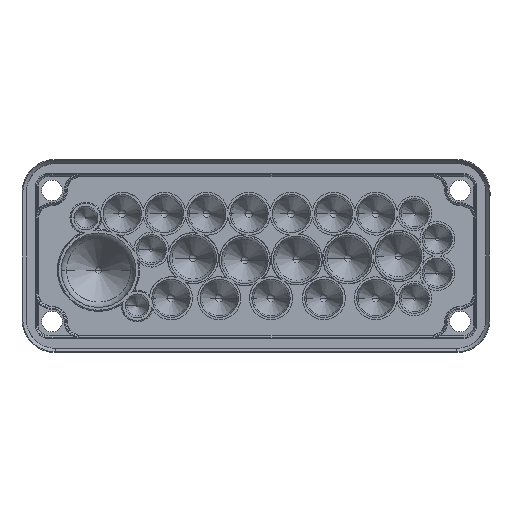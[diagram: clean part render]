
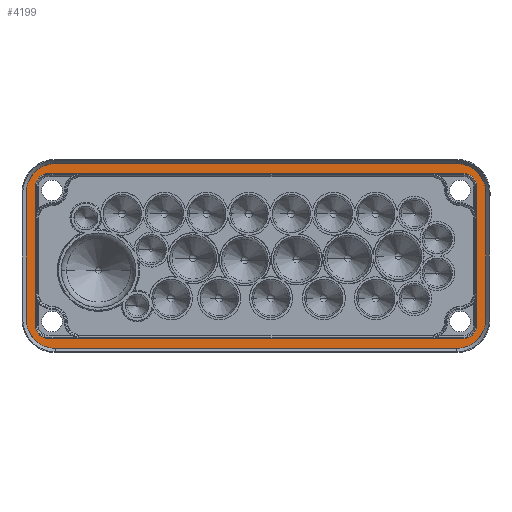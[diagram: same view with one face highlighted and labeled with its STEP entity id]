
A CAD part, front view. The second image highlights one B-rep face of the part: STEP entity #4199.
In plain terms, the highlighted planar face has unit normal (0, -1, 0).
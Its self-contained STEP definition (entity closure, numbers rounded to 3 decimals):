
#191 = CIRCLE ( 'NONE', #49527, 13.7 ) ;
#347 = ORIENTED_EDGE ( 'NONE', *, *, #53894, .T. ) ;
#716 = CARTESIAN_POINT ( 'NONE',  ( 127.593, -8.374, 26.365 ) ) ;
#951 = CARTESIAN_POINT ( 'NONE',  ( 117.293, -8.374, -42.535 ) ) ;
#2208 = AXIS2_PLACEMENT_3D ( 'NONE', #64522, #31467, #65068 ) ;
#3133 = AXIS2_PLACEMENT_3D ( 'NONE', #68010, #51422, #10684 ) ;
#3454 = DIRECTION ( 'NONE',  ( 0., 1., 0. ) ) ;
#3748 = CARTESIAN_POINT ( 'NONE',  ( 117.293, -8.374, 29.265 ) ) ;
#4022 = CIRCLE ( 'NONE', #46485, 13.7 ) ;
#4199 = ADVANCED_FACE ( 'NONE', ( #54497, #4378 ), #55032, .T. ) ;
#4378 = FACE_OUTER_BOUND ( 'NONE', #65223, .T. ) ;
#6468 = DIRECTION ( 'NONE',  ( 0., 1., 0. ) ) ;
#6979 = ORIENTED_EDGE ( 'NONE', *, *, #14249, .F. ) ;
#7161 = LINE ( 'NONE', #40763, #73784 ) ;
#7284 = VECTOR ( 'NONE', #60552, 1000. ) ;
#7594 = EDGE_LOOP ( 'NONE', ( #102951, #28974, #347, #11031, #15626, #90509, #20460, #85736 ) ) ;
#9050 = CARTESIAN_POINT ( 'NONE',  ( -76.107, -8.374, -47.335 ) ) ;
#9456 = EDGE_CURVE ( 'NONE', #12578, #35932, #191, .T. ) ;
#10684 = DIRECTION ( 'NONE',  ( 0., 0., -1. ) ) ;
#10884 = CIRCLE ( 'NONE', #68944, 6. ) ;
#11031 = ORIENTED_EDGE ( 'NONE', *, *, #50639, .T. ) ;
#11320 = ORIENTED_EDGE ( 'NONE', *, *, #26366, .F. ) ;
#12360 = AXIS2_PLACEMENT_3D ( 'NONE', #12811, #3454, #45312 ) ;
#12578 = VERTEX_POINT ( 'NONE', #26761 ) ;
#12811 = CARTESIAN_POINT ( 'NONE',  ( -79.507, -8.374, 29.265 ) ) ;
#12959 = CIRCLE ( 'NONE', #74564, 6. ) ;
#13312 = EDGE_CURVE ( 'NONE', #83890, #37368, #61623, .T. ) ;
#14019 = CARTESIAN_POINT ( 'NONE',  ( -76.107, -8.374, -33.635 ) ) ;
#14249 = EDGE_CURVE ( 'NONE', #35932, #32002, #58714, .T. ) ;
#15038 = LINE ( 'NONE', #108753, #21920 ) ;
#15560 = CARTESIAN_POINT ( 'NONE',  ( -79.507, -8.374, 35.265 ) ) ;
#15626 = ORIENTED_EDGE ( 'NONE', *, *, #82563, .T. ) ;
#18421 = VECTOR ( 'NONE', #59378, 1000. ) ;
#20460 = ORIENTED_EDGE ( 'NONE', *, *, #73088, .T. ) ;
#21677 = AXIS2_PLACEMENT_3D ( 'NONE', #105242, #63874, #21993 ) ;
#21920 = VECTOR ( 'NONE', #58508, 1000. ) ;
#21993 = DIRECTION ( 'NONE',  ( 0., 0., -1. ) ) ;
#23340 = DIRECTION ( 'NONE',  ( 0., 1., 0. ) ) ;
#24092 = VERTEX_POINT ( 'NONE', #49800 ) ;
#24237 = VERTEX_POINT ( 'NONE', #27711 ) ;
#26366 = EDGE_CURVE ( 'NONE', #87853, #92493, #76494, .T. ) ;
#26761 = CARTESIAN_POINT ( 'NONE',  ( 127.593, -8.374, -33.635 ) ) ;
#27711 = CARTESIAN_POINT ( 'NONE',  ( 113.893, -8.374, 40.065 ) ) ;
#28146 = VERTEX_POINT ( 'NONE', #716 ) ;
#28426 = VECTOR ( 'NONE', #53461, 1000. ) ;
#28465 = VERTEX_POINT ( 'NONE', #15560 ) ;
#28499 = CARTESIAN_POINT ( 'NONE',  ( 113.893, -8.374, 26.365 ) ) ;
#28974 = ORIENTED_EDGE ( 'NONE', *, *, #13312, .F. ) ;
#29162 = LINE ( 'NONE', #97565, #51329 ) ;
#31273 = CARTESIAN_POINT ( 'NONE',  ( 117.293, -8.374, -36.535 ) ) ;
#31467 = DIRECTION ( 'NONE',  ( 0., 1., 0. ) ) ;
#32002 = VERTEX_POINT ( 'NONE', #9050 ) ;
#35932 = VERTEX_POINT ( 'NONE', #92481 ) ;
#36007 = CARTESIAN_POINT ( 'NONE',  ( 117.293, -8.374, 35.265 ) ) ;
#37368 = VERTEX_POINT ( 'NONE', #61747 ) ;
#37882 = DIRECTION ( 'NONE',  ( 0., 0., -1. ) ) ;
#39850 = EDGE_CURVE ( 'NONE', #24092, #99073, #29162, .T. ) ;
#40763 = CARTESIAN_POINT ( 'NONE',  ( 117.293, -8.374, -42.535 ) ) ;
#42745 = ORIENTED_EDGE ( 'NONE', *, *, #9456, .F. ) ;
#43488 = DIRECTION ( 'NONE',  ( 0., 0., 1. ) ) ;
#45312 = DIRECTION ( 'NONE',  ( 0., 0., -1. ) ) ;
#46485 = AXIS2_PLACEMENT_3D ( 'NONE', #28499, #78677, #68754 ) ;
#47235 = DIRECTION ( 'NONE',  ( 0., 0., -1. ) ) ;
#48119 = VERTEX_POINT ( 'NONE', #36007 ) ;
#48447 = DIRECTION ( 'NONE',  ( 0., 0., -1. ) ) ;
#49527 = AXIS2_PLACEMENT_3D ( 'NONE', #90888, #73283, #48447 ) ;
#49800 = CARTESIAN_POINT ( 'NONE',  ( -85.507, -8.374, -36.535 ) ) ;
#50533 = CARTESIAN_POINT ( 'NONE',  ( -89.807, -8.374, -33.635 ) ) ;
#50605 = CIRCLE ( 'NONE', #3133, 13.7 ) ;
#50639 = EDGE_CURVE ( 'NONE', #80976, #94656, #7161, .T. ) ;
#51329 = VECTOR ( 'NONE', #62778, 1000. ) ;
#51422 = DIRECTION ( 'NONE',  ( 0., 1., 0. ) ) ;
#52220 = CARTESIAN_POINT ( 'NONE',  ( -89.807, -8.374, 26.365 ) ) ;
#53461 = DIRECTION ( 'NONE',  ( 1., 0., 0. ) ) ;
#53894 = EDGE_CURVE ( 'NONE', #83890, #80976, #12959, .T. ) ;
#53968 = CARTESIAN_POINT ( 'NONE',  ( -79.507, -8.374, 35.265 ) ) ;
#54331 = EDGE_CURVE ( 'NONE', #57702, #24237, #15038, .T. ) ;
#54497 = FACE_BOUND ( 'NONE', #7594, .T. ) ;
#55032 = PLANE ( 'NONE',  #21677 ) ;
#55628 = ORIENTED_EDGE ( 'NONE', *, *, #58153, .F. ) ;
#57702 = VERTEX_POINT ( 'NONE', #102998 ) ;
#58153 = EDGE_CURVE ( 'NONE', #92493, #57702, #50605, .T. ) ;
#58508 = DIRECTION ( 'NONE',  ( 1., 0., 0. ) ) ;
#58714 = LINE ( 'NONE', #93458, #86148 ) ;
#59378 = DIRECTION ( 'NONE',  ( 0., 0., 1. ) ) ;
#60552 = DIRECTION ( 'NONE',  ( 0., 0., 1. ) ) ;
#61623 = LINE ( 'NONE', #62701, #7284 ) ;
#61667 = CARTESIAN_POINT ( 'NONE',  ( 127.593, -8.374, -33.635 ) ) ;
#61747 = CARTESIAN_POINT ( 'NONE',  ( 123.293, -8.374, 29.265 ) ) ;
#62701 = CARTESIAN_POINT ( 'NONE',  ( 123.293, -8.374, -36.535 ) ) ;
#62778 = DIRECTION ( 'NONE',  ( 0., 0., 1. ) ) ;
#62804 = LINE ( 'NONE', #53968, #28426 ) ;
#63874 = DIRECTION ( 'NONE',  ( 0., -1., 0. ) ) ;
#64522 = CARTESIAN_POINT ( 'NONE',  ( -79.507, -8.374, -36.535 ) ) ;
#65068 = DIRECTION ( 'NONE',  ( 0., 0., -1. ) ) ;
#65223 = EDGE_LOOP ( 'NONE', ( #103545, #83267, #55628, #11320, #99130, #6979, #42745, #76629 ) ) ;
#68010 = CARTESIAN_POINT ( 'NONE',  ( -76.107, -8.374, 26.365 ) ) ;
#68754 = DIRECTION ( 'NONE',  ( 0., 0., -1. ) ) ;
#68944 = AXIS2_PLACEMENT_3D ( 'NONE', #3748, #70987, #37882 ) ;
#70987 = DIRECTION ( 'NONE',  ( 0., 1., 0. ) ) ;
#72978 = DIRECTION ( 'NONE',  ( 0., 0., -1. ) ) ;
#73088 = EDGE_CURVE ( 'NONE', #99073, #28465, #88056, .T. ) ;
#73283 = DIRECTION ( 'NONE',  ( 0., 1., 0. ) ) ;
#73784 = VECTOR ( 'NONE', #74389, 1000. ) ;
#74319 = EDGE_CURVE ( 'NONE', #32002, #87853, #100694, .T. ) ;
#74389 = DIRECTION ( 'NONE',  ( -1., 0., 0. ) ) ;
#74564 = AXIS2_PLACEMENT_3D ( 'NONE', #31273, #6468, #47235 ) ;
#76494 = LINE ( 'NONE', #50533, #18421 ) ;
#76629 = ORIENTED_EDGE ( 'NONE', *, *, #97535, .T. ) ;
#78677 = DIRECTION ( 'NONE',  ( 0., 1., 0. ) ) ;
#80976 = VERTEX_POINT ( 'NONE', #951 ) ;
#82563 = EDGE_CURVE ( 'NONE', #94656, #24092, #106117, .T. ) ;
#83122 = AXIS2_PLACEMENT_3D ( 'NONE', #14019, #23340, #72978 ) ;
#83267 = ORIENTED_EDGE ( 'NONE', *, *, #54331, .F. ) ;
#83783 = EDGE_CURVE ( 'NONE', #24237, #28146, #4022, .T. ) ;
#83890 = VERTEX_POINT ( 'NONE', #92375 ) ;
#84902 = CARTESIAN_POINT ( 'NONE',  ( -89.807, -8.374, -33.635 ) ) ;
#85736 = ORIENTED_EDGE ( 'NONE', *, *, #88797, .T. ) ;
#86146 = CARTESIAN_POINT ( 'NONE',  ( -79.507, -8.374, -42.535 ) ) ;
#86148 = VECTOR ( 'NONE', #101192, 1000. ) ;
#87853 = VERTEX_POINT ( 'NONE', #84902 ) ;
#88056 = CIRCLE ( 'NONE', #12360, 6. ) ;
#88797 = EDGE_CURVE ( 'NONE', #28465, #48119, #62804, .T. ) ;
#89173 = EDGE_CURVE ( 'NONE', #48119, #37368, #10884, .T. ) ;
#90509 = ORIENTED_EDGE ( 'NONE', *, *, #39850, .T. ) ;
#90888 = CARTESIAN_POINT ( 'NONE',  ( 113.893, -8.374, -33.635 ) ) ;
#92375 = CARTESIAN_POINT ( 'NONE',  ( 123.293, -8.374, -36.535 ) ) ;
#92481 = CARTESIAN_POINT ( 'NONE',  ( 113.893, -8.374, -47.335 ) ) ;
#92493 = VERTEX_POINT ( 'NONE', #52220 ) ;
#93458 = CARTESIAN_POINT ( 'NONE',  ( 113.893, -8.374, -47.335 ) ) ;
#93622 = CARTESIAN_POINT ( 'NONE',  ( -85.507, -8.374, 29.265 ) ) ;
#94656 = VERTEX_POINT ( 'NONE', #86146 ) ;
#94791 = LINE ( 'NONE', #61667, #107503 ) ;
#97535 = EDGE_CURVE ( 'NONE', #12578, #28146, #94791, .T. ) ;
#97565 = CARTESIAN_POINT ( 'NONE',  ( -85.507, -8.374, -36.535 ) ) ;
#99073 = VERTEX_POINT ( 'NONE', #93622 ) ;
#99130 = ORIENTED_EDGE ( 'NONE', *, *, #74319, .F. ) ;
#100694 = CIRCLE ( 'NONE', #83122, 13.7 ) ;
#101192 = DIRECTION ( 'NONE',  ( -1., 0., 0. ) ) ;
#102951 = ORIENTED_EDGE ( 'NONE', *, *, #89173, .T. ) ;
#102998 = CARTESIAN_POINT ( 'NONE',  ( -76.107, -8.374, 40.065 ) ) ;
#103545 = ORIENTED_EDGE ( 'NONE', *, *, #83783, .F. ) ;
#105242 = CARTESIAN_POINT ( 'NONE',  ( -76.107, -8.374, 26.365 ) ) ;
#106117 = CIRCLE ( 'NONE', #2208, 6. ) ;
#107503 = VECTOR ( 'NONE', #43488, 1000. ) ;
#108753 = CARTESIAN_POINT ( 'NONE',  ( -76.107, -8.374, 40.065 ) ) ;
